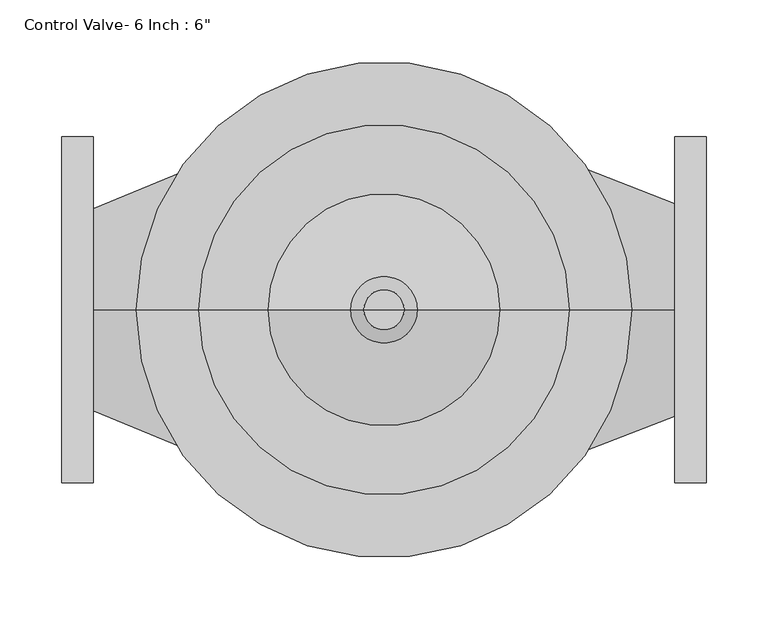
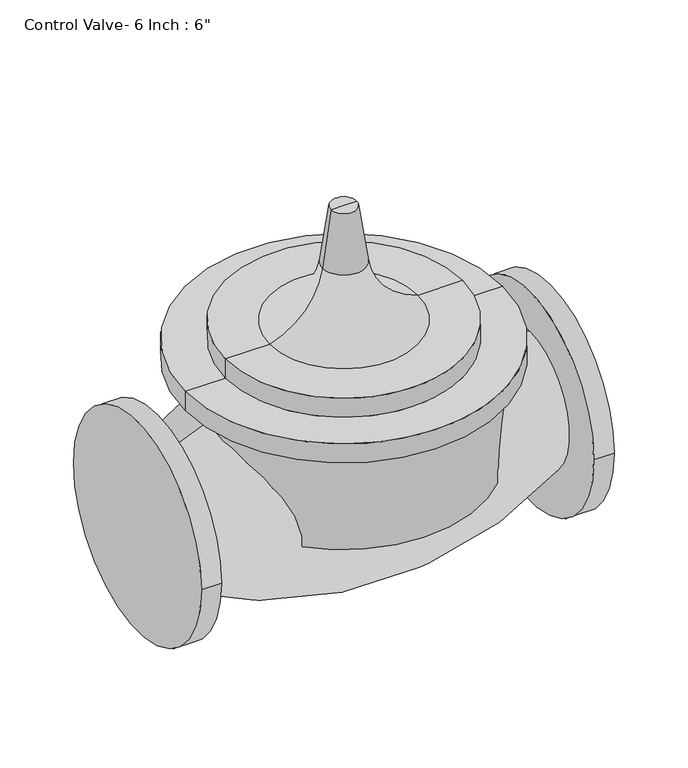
"""IFC4 building model written with IfcOpenShell, lengths in millimetres: valve geometry."""

from ifc_helpers import new_model, si_unit, point, frame, origin, origin_with_axes, origin_2d, place, context, project, spatial, polyline, circle_curve, ellipse_curve, trimmed, segment, composite_curve, outline, extrude, source, transform, mapped, element, save
from ifc_brep_helpers import plane_surface, cylinder_surface, revolved_surface, advanced_brep


def valve_1b583547(model_context):
    return source(origin(), model_context, "Body", "SolidModel", [
        extrude(outline(composite_curve([segment(trimmed(circle_curve(origin_2d(), 139.7), [point((-139.7, 0.0))], [point((139.7, 0.0))], False, "CARTESIAN"), True, "CONTINUOUS"), segment(trimmed(circle_curve(origin_2d(), 139.7), [point((139.7, 0.0))], [point((-139.7, 0.0))], False, "CARTESIAN"), True, "CONTINUOUS")], self_intersect=False)), frame((-260.35, 0.0, 0.0), z_axis=(1.0, 0.0, 0.0), x_axis=(0.0, 1.0, 0.0)), (0.0, 0.0, 1.0), 25.4),
        extrude(outline(composite_curve([segment(trimmed(circle_curve(origin_2d(), 139.7), [point((-139.7, 0.0))], [point((139.7, 0.0))], False, "CARTESIAN"), True, "CONTINUOUS"), segment(trimmed(circle_curve(origin_2d(), 139.7), [point((139.7, 0.0))], [point((-139.7, 0.0))], False, "CARTESIAN"), True, "CONTINUOUS")], self_intersect=False)), frame((234.95, 0.0, 0.0), z_axis=(1.0, 0.0, 0.0), x_axis=(0.0, 1.0, 0.0)), (0.0, 0.0, 1.0), 25.4),
        advanced_brep(
        [(234.95, 0.0, 0.0), (234.95, 0.0, -86.3865993), (234.95, 0.0, 86.3865993), (-234.95, 0.0, 82.0642911), (-234.95, 0.0, -82.0642911), (-234.95, 0.0, 0.0)],
        [
            (0, 1),
            (1, 2, circle_curve(frame((234.95, 0.0, 0.0), z_axis=(1.0, 0.0, 0.0), x_axis=(0.0, 0.0, -1.0)), 86.3865993)),
            (2, 0),
            (2, 1, circle_curve(frame((234.95, 0.0, 0.0), z_axis=(1.0, 0.0, 0.0), x_axis=(0.0, 0.0, -1.0)), 86.3865993)),
            (3, 4, circle_curve(frame((-234.95, 0.0, 0.0), z_axis=(-1.0, 0.0, 0.0), x_axis=(0.0, 0.0, -1.0)), 82.0642911)),
            (4, 5),
            (5, 3),
            (4, 3, circle_curve(frame((-234.95, 0.0, 0.0), z_axis=(-1.0, 0.0, 0.0), x_axis=(0.0, 0.0, -1.0)), 82.0642911)),
            (1, 4, circle_curve(frame((4.1642962, 0.0, 368.4962787), z_axis=(0.0, 1.0, 0.0), x_axis=(1.0, 0.0, 0.0)), 510.0788897)),
            (3, 2, circle_curve(frame((4.1642962, 0.0, -368.4962787), z_axis=(0.0, 1.0, 0.0), x_axis=(1.0, 0.0, 0.0)), 510.0788897)),
        ],
        [
            plane_surface(frame((234.95, 0.0, 0.0), z_axis=(1.0, 0.0, 0.0), x_axis=(0.0, 0.0, -1.0))),
            plane_surface(frame((-234.95, 0.0, 0.0), z_axis=(-1.0, 0.0, 0.0), x_axis=(0.0, 0.0, -1.0))),
            revolved_surface(trimmed(ellipse_curve(frame((4.1642962, 0.0, 368.4962787), z_axis=(0.0, -1.0, 0.0), x_axis=(1.0, 0.0, 0.0)), 510.0788897, 510.0788897), [point((-234.95, 0.0, -82.0642911))], [point((234.95, 0.0, -86.3865993))], True, "CARTESIAN"), (-419.1, 0.0, 0.0), (1.0, 0.0, 0.0)),
        ],
        [
            (0, [[1, 2, 3]]),
            (0, [[-3, 4, -1]]),
            (1, [[5, 6, 7]]),
            (1, [[8, -7, -6]]),
            (2, [[-2, 9, -5, 10]]),
            (2, [[-4, -10, -8, -9]]),
        ],
    ),
        advanced_brep(
        [(-174.9564385, 0.0, 133.35), (174.9564385, 0.0, 133.35), (174.9564385, 0.0, 0.0), (-174.9564385, 0.0, 0.0), (-200.3564385, 0.0, 133.35), (200.3564385, 0.0, 133.35), (-200.3564385, 0.0, 158.75), (200.3564385, 0.0, 158.75), (-149.5564385, 0.0, 158.75), (149.5564385, 0.0, 158.75), (-149.5564385, 0.0, 184.15), (149.5564385, 0.0, 184.15), (-93.8282192, 0.0, 184.15), (93.8282192, 0.0, 184.15), (0.0, 0.0, 0.0), (-16.2689051, 0.0, 336.55), (16.2689051, 0.0, 336.55), (26.8911118, 0.0, 262.2633841), (-26.8911118, 0.0, 262.2633841), (0.0, 0.0, 336.55)],
        [
            (0, 1, circle_curve(frame((0.0, 0.0, 133.35), z_axis=(0.0, 0.0, -1.0), x_axis=(1.0, 0.0, 0.0)), 174.9564385)),
            (1, 2),
            (2, 3, circle_curve(origin_with_axes(), 174.9564385)),
            (3, 0),
            (1, 0, circle_curve(frame((0.0, 0.0, 133.35), z_axis=(0.0, 0.0, -1.0), x_axis=(1.0, 0.0, 0.0)), 174.9564385)),
            (3, 2, circle_curve(origin_with_axes(), 174.9564385)),
            (4, 5, circle_curve(frame((0.0, 0.0, 133.35), z_axis=(0.0, 0.0, -1.0), x_axis=(1.0, 0.0, 0.0)), 200.3564385)),
            (5, 1),
            (0, 4),
            (5, 4, circle_curve(frame((0.0, 0.0, 133.35), z_axis=(0.0, 0.0, -1.0), x_axis=(1.0, 0.0, 0.0)), 200.3564385)),
            (6, 7, circle_curve(frame((0.0, 0.0, 158.75), z_axis=(0.0, 0.0, -1.0), x_axis=(1.0, 0.0, 0.0)), 200.3564385)),
            (7, 5),
            (4, 6),
            (7, 6, circle_curve(frame((0.0, 0.0, 158.75), z_axis=(0.0, 0.0, -1.0), x_axis=(1.0, 0.0, 0.0)), 200.3564385)),
            (8, 9, circle_curve(frame((0.0, 0.0, 158.75), z_axis=(0.0, 0.0, -1.0), x_axis=(1.0, 0.0, 0.0)), 149.5564385)),
            (9, 7),
            (6, 8),
            (9, 8, circle_curve(frame((0.0, 0.0, 158.75), z_axis=(0.0, 0.0, -1.0), x_axis=(1.0, 0.0, 0.0)), 149.5564385)),
            (10, 11, circle_curve(frame((0.0, 0.0, 184.15), z_axis=(0.0, 0.0, -1.0), x_axis=(1.0, 0.0, 0.0)), 149.5564385)),
            (11, 9),
            (8, 10),
            (11, 10, circle_curve(frame((0.0, 0.0, 184.15), z_axis=(0.0, 0.0, -1.0), x_axis=(1.0, 0.0, 0.0)), 149.5564385)),
            (12, 13, circle_curve(frame((0.0, 0.0, 184.15), z_axis=(0.0, 0.0, -1.0), x_axis=(1.0, 0.0, 0.0)), 93.8282192)),
            (13, 11),
            (10, 12),
            (13, 12, circle_curve(frame((0.0, 0.0, 184.15), z_axis=(0.0, 0.0, -1.0), x_axis=(1.0, 0.0, 0.0)), 93.8282192)),
            (2, 14),
            (14, 3),
            (15, 16, circle_curve(frame((0.0, 0.0, 336.55), z_axis=(0.0, 0.0, -1.0), x_axis=(1.0, 0.0, 0.0)), 16.2689051)),
            (16, 17),
            (17, 18, circle_curve(frame((0.0, 0.0, 262.2633841), z_axis=(0.0, 0.0, 1.0), x_axis=(1.0, 0.0, 0.0)), 26.8911118)),
            (18, 15),
            (16, 15, circle_curve(frame((0.0, 0.0, 336.55), z_axis=(0.0, 0.0, -1.0), x_axis=(1.0, 0.0, 0.0)), 16.2689051)),
            (18, 17, circle_curve(frame((0.0, 0.0, 262.2633841), z_axis=(0.0, 0.0, 1.0), x_axis=(1.0, 0.0, 0.0)), 26.8911118)),
            (19, 16),
            (15, 19),
            (17, 13, circle_curve(frame((121.7692821, 0.0, 275.8299671), z_axis=(0.0, -1.0, 0.0), x_axis=(1.0, 0.0, 0.0)), 95.843202)),
            (12, 18, circle_curve(frame((-121.7692821, 0.0, 275.8299671), z_axis=(0.0, -1.0, 0.0), x_axis=(-1.0, 0.0, 0.0)), 95.843202)),
        ],
        [
            cylinder_surface(origin_with_axes(), 174.9564385),
            plane_surface(frame((0.0, 0.0, 133.35), z_axis=(0.0, 0.0, -1.0), x_axis=(1.0, 0.0, 0.0))),
            cylinder_surface(origin_with_axes(), 200.3564385),
            plane_surface(frame((0.0, 0.0, 158.75), z_axis=(0.0, 0.0, 1.0), x_axis=(1.0, 0.0, 0.0))),
            cylinder_surface(origin_with_axes(), 149.5564385),
            plane_surface(frame((0.0, 0.0, 184.15), z_axis=(0.0, 0.0, 1.0), x_axis=(1.0, 0.0, 0.0))),
            plane_surface(frame((0.0, 0.0, 0.0), z_axis=(0.0, 0.0, -1.0), x_axis=(1.0, 0.0, 0.0))),
            revolved_surface(polyline([(26.8911118, 0.0, 262.2633841), (16.2689051, 0.0, 336.55)]), (0.0, 0.0, 0.0), (0.0, 0.0, 1.0)),
            plane_surface(frame((0.0, 0.0, 336.55), z_axis=(0.0, 0.0, 1.0), x_axis=(1.0, 0.0, 0.0))),
            revolved_surface(trimmed(ellipse_curve(frame((121.7692821, 0.0, 275.8299671), z_axis=(0.0, 1.0, 0.0), x_axis=(1.0, 0.0, 0.0)), 95.843202, 95.843202), [point((93.8282192, 0.0, 184.15))], [point((26.8911118, 0.0, 262.2633841))], True, "CARTESIAN"), (0.0, 0.0, 0.0), (0.0, 0.0, 1.0)),
        ],
        [
            (0, [[1, 2, 3, 4]]),
            (0, [[5, -4, 6, -2]]),
            (1, [[7, 8, -1, 9]]),
            (1, [[10, -9, -5, -8]]),
            (2, [[11, 12, -7, 13]]),
            (2, [[14, -13, -10, -12]]),
            (3, [[15, 16, -11, 17]]),
            (3, [[18, -17, -14, -16]]),
            (4, [[19, 20, -15, 21]]),
            (4, [[22, -21, -18, -20]]),
            (5, [[23, 24, -19, 25]]),
            (5, [[26, -25, -22, -24]]),
            (6, [[-3, 27, 28]]),
            (6, [[-6, -28, -27]]),
            (7, [[29, 30, 31, 32]]),
            (7, [[33, -32, 34, -30]]),
            (8, [[35, -29, 36]]),
            (8, [[-36, -33, -35]]),
            (9, [[-31, 37, -23, 38]]),
            (9, [[-34, -38, -26, -37]]),
        ],
    ),
    ])


if __name__ == "__main__":
    model = new_model("IFC4")
    model_context = context("Model", 3, world=origin())
    ifc_project = project(units=[si_unit("LENGTHUNIT", "METRE", prefix="MILLI")], contexts=[model_context])
    site = spatial("IfcSite", under=ifc_project)
    building = spatial("IfcBuilding", under=site)
    placement = place(None, origin())
    valve_shape = valve_1b583547(model_context)
    element("IfcValve", 1, ObjectType="Control Valve- 6 Inch : 6\"", at=placement, inside=building, context=model_context, shape_type="MappedRepresentation", body=[
        mapped(valve_shape, transform((0.0, 0.0, 0.0), x_axis=(1.0, 0.0, 0.0), y_axis=(0.0, 1.0, 0.0), z_axis=(0.0, 0.0, 1.0))),
    ])
    save(model, "model.ifc")
